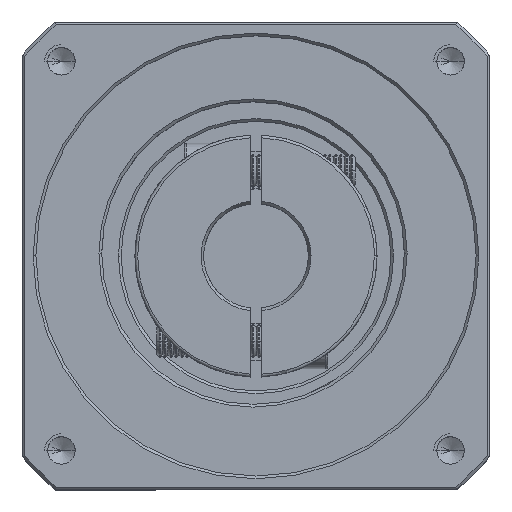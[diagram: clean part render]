
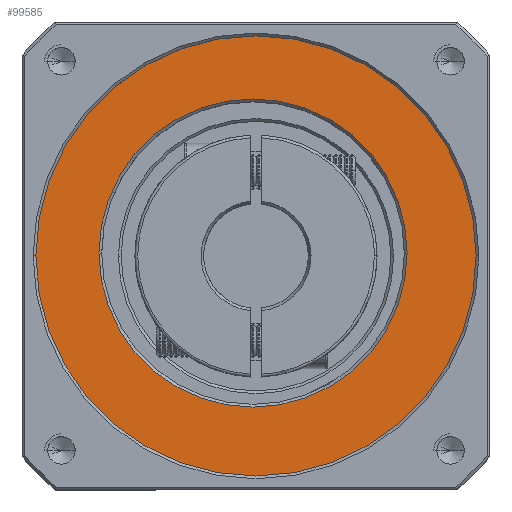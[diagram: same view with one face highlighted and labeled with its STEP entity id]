
A CAD part, top view. The second image highlights one B-rep face of the part: STEP entity #99585.
In plain terms, the highlighted planar face has unit normal (0, 0, 1).
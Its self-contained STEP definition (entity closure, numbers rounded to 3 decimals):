
#2086 = CARTESIAN_POINT ( 'NONE',  ( -37.067, 68.253, -61.843 ) ) ;
#5800 = DIRECTION ( 'NONE',  ( 1., 0., 0. ) ) ;
#12028 = DIRECTION ( 'NONE',  ( 1., 0., 0. ) ) ;
#13751 = VERTEX_POINT ( 'NONE', #126606 ) ;
#15802 = DIRECTION ( 'NONE',  ( 0., 0., -1. ) ) ;
#16160 = PLANE ( 'NONE',  #29992 ) ;
#16972 = EDGE_CURVE ( 'NONE', #13751, #69861, #37598, .T. ) ;
#19383 = ORIENTED_EDGE ( 'NONE', *, *, #77626, .T. ) ;
#26932 = CARTESIAN_POINT ( 'NONE',  ( -37.067, 68.253, -61.843 ) ) ;
#28826 = CIRCLE ( 'NONE', #41692, 40. ) ;
#28846 = ORIENTED_EDGE ( 'NONE', *, *, #113318, .T. ) ;
#29992 = AXIS2_PLACEMENT_3D ( 'NONE', #26932, #95627, #36832 ) ;
#33351 = CIRCLE ( 'NONE', #83475, 28. ) ;
#35436 = CARTESIAN_POINT ( 'NONE',  ( -9.609, 68.787, -61.843 ) ) ;
#36433 = CIRCLE ( 'NONE', #109361, 28. ) ;
#36832 = DIRECTION ( 'NONE',  ( 1., 0., 0. ) ) ;
#37598 = CIRCLE ( 'NONE', #61533, 40. ) ;
#37855 = VERTEX_POINT ( 'NONE', #74033 ) ;
#40497 = EDGE_LOOP ( 'NONE', ( #19383, #123073 ) ) ;
#41692 = AXIS2_PLACEMENT_3D ( 'NONE', #2086, #70847, #12028 ) ;
#44929 = ORIENTED_EDGE ( 'NONE', *, *, #56039, .T. ) ;
#52719 = CARTESIAN_POINT ( 'NONE',  ( -37.067, 68.253, -61.843 ) ) ;
#53056 = FACE_BOUND ( 'NONE', #112341, .T. ) ;
#56039 = EDGE_CURVE ( 'NONE', #37855, #120874, #36433, .T. ) ;
#61533 = AXIS2_PLACEMENT_3D ( 'NONE', #52719, #121409, #62571 ) ;
#62257 = CARTESIAN_POINT ( 'NONE',  ( 2.933, 68.253, -61.843 ) ) ;
#62571 = DIRECTION ( 'NONE',  ( 1., 0., 0. ) ) ;
#64733 = DIRECTION ( 'NONE',  ( 0., 0., -1. ) ) ;
#69861 = VERTEX_POINT ( 'NONE', #62257 ) ;
#70847 = DIRECTION ( 'NONE',  ( 0., 0., 1. ) ) ;
#74033 = CARTESIAN_POINT ( 'NONE',  ( -65.609, 68.787, -61.843 ) ) ;
#74676 = CARTESIAN_POINT ( 'NONE',  ( -37.609, 68.787, -61.843 ) ) ;
#77626 = EDGE_CURVE ( 'NONE', #69861, #13751, #28826, .T. ) ;
#79189 = FACE_OUTER_BOUND ( 'NONE', #40497, .T. ) ;
#83475 = AXIS2_PLACEMENT_3D ( 'NONE', #123503, #64733, #5800 ) ;
#84544 = DIRECTION ( 'NONE',  ( 1., 0., 0. ) ) ;
#95627 = DIRECTION ( 'NONE',  ( 0., 0., 1. ) ) ;
#99585 = ADVANCED_FACE ( 'NONE', ( #79189, #53056 ), #16160, .T. ) ;
#109361 = AXIS2_PLACEMENT_3D ( 'NONE', #74676, #15802, #84544 ) ;
#112341 = EDGE_LOOP ( 'NONE', ( #28846, #44929 ) ) ;
#113318 = EDGE_CURVE ( 'NONE', #120874, #37855, #33351, .T. ) ;
#120874 = VERTEX_POINT ( 'NONE', #35436 ) ;
#121409 = DIRECTION ( 'NONE',  ( 0., 0., 1. ) ) ;
#123073 = ORIENTED_EDGE ( 'NONE', *, *, #16972, .T. ) ;
#123503 = CARTESIAN_POINT ( 'NONE',  ( -37.609, 68.787, -61.843 ) ) ;
#126606 = CARTESIAN_POINT ( 'NONE',  ( -77.067, 68.253, -61.843 ) ) ;
